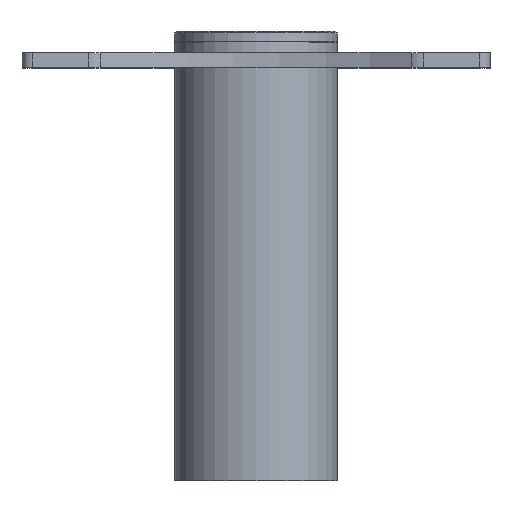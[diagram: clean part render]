
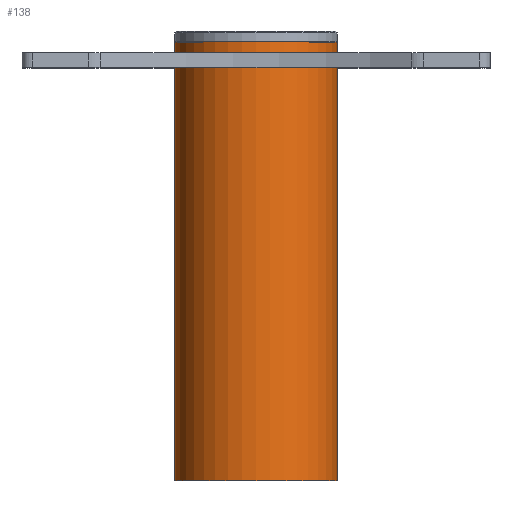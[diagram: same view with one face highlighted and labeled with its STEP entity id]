
A CAD part, top view. The second image highlights one B-rep face of the part: STEP entity #138.
In plain terms, the highlighted cylindrical face has radius 70.65 mm (diameter 141.3 mm), a partial arc.
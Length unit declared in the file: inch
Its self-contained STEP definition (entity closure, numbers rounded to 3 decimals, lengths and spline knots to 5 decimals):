
#46 = CARTESIAN_POINT ( 'NONE',  ( -2.7815, 0., 15. ) ) ;
#63 = DIRECTION ( 'NONE',  ( 0., 0., 1. ) ) ;
#65 = VERTEX_POINT ( 'NONE', #2639 ) ;
#116 = CARTESIAN_POINT ( 'NONE',  ( 0., 0., 0. ) ) ;
#120 = EDGE_CURVE ( 'NONE', #469, #65, #2594, .T. ) ;
#138 = ADVANCED_FACE ( 'NONE', ( #739 ), #2439, .T. ) ;
#221 = ORIENTED_EDGE ( 'NONE', *, *, #3576, .F. ) ;
#233 = VECTOR ( 'NONE', #3165, 39.37008 ) ;
#284 = DIRECTION ( 'NONE',  ( 0., 0., -1. ) ) ;
#338 = CIRCLE ( 'NONE', #2717, 2.7815 ) ;
#373 = DIRECTION ( 'NONE',  ( 0., 0., 1. ) ) ;
#469 = VERTEX_POINT ( 'NONE', #3118 ) ;
#547 = EDGE_LOOP ( 'NONE', ( #2022, #1836, #1538, #221 ) ) ;
#739 = FACE_OUTER_BOUND ( 'NONE', #547, .T. ) ;
#761 = VECTOR ( 'NONE', #284, 39.37008 ) ;
#842 = CARTESIAN_POINT ( 'NONE',  ( -2.7815, 0., 0. ) ) ;
#913 = LINE ( 'NONE', #46, #233 ) ;
#1035 = DIRECTION ( 'NONE',  ( 0., 0., -1. ) ) ;
#1104 = AXIS2_PLACEMENT_3D ( 'NONE', #1593, #1035, #3062 ) ;
#1497 = VERTEX_POINT ( 'NONE', #842 ) ;
#1538 = ORIENTED_EDGE ( 'NONE', *, *, #2111, .T. ) ;
#1593 = CARTESIAN_POINT ( 'NONE',  ( 0., 0., 15. ) ) ;
#1836 = ORIENTED_EDGE ( 'NONE', *, *, #3604, .T. ) ;
#2022 = ORIENTED_EDGE ( 'NONE', *, *, #120, .F. ) ;
#2111 = EDGE_CURVE ( 'NONE', #2363, #1497, #338, .T. ) ;
#2363 = VERTEX_POINT ( 'NONE', #2995 ) ;
#2439 = CYLINDRICAL_SURFACE ( 'NONE', #1104, 2.7815 ) ;
#2533 = CARTESIAN_POINT ( 'NONE',  ( 2.7815, 0., 15. ) ) ;
#2594 = CIRCLE ( 'NONE', #3667, 2.7815 ) ;
#2639 = CARTESIAN_POINT ( 'NONE',  ( -2.7815, 0., 15. ) ) ;
#2717 = AXIS2_PLACEMENT_3D ( 'NONE', #116, #373, #2981 ) ;
#2981 = DIRECTION ( 'NONE',  ( 1., 0., 0. ) ) ;
#2995 = CARTESIAN_POINT ( 'NONE',  ( 2.7815, 0., 0. ) ) ;
#3062 = DIRECTION ( 'NONE',  ( -1., 0., 0. ) ) ;
#3118 = CARTESIAN_POINT ( 'NONE',  ( 2.7815, 0., 15. ) ) ;
#3127 = LINE ( 'NONE', #2533, #761 ) ;
#3165 = DIRECTION ( 'NONE',  ( 0., 0., -1. ) ) ;
#3530 = CARTESIAN_POINT ( 'NONE',  ( 0., 0., 15. ) ) ;
#3576 = EDGE_CURVE ( 'NONE', #65, #1497, #913, .T. ) ;
#3603 = DIRECTION ( 'NONE',  ( 1., 0., 0. ) ) ;
#3604 = EDGE_CURVE ( 'NONE', #469, #2363, #3127, .T. ) ;
#3667 = AXIS2_PLACEMENT_3D ( 'NONE', #3530, #63, #3603 ) ;
